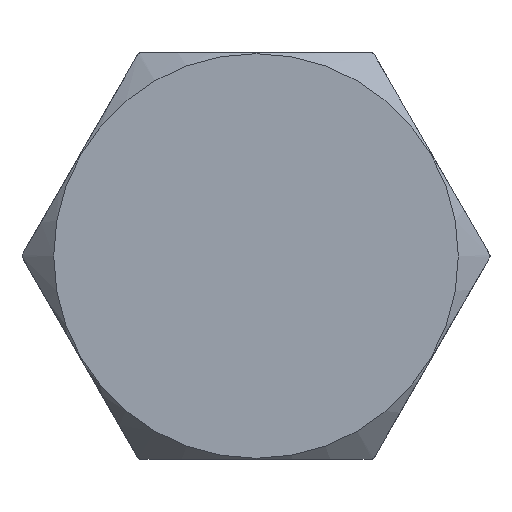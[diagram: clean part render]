
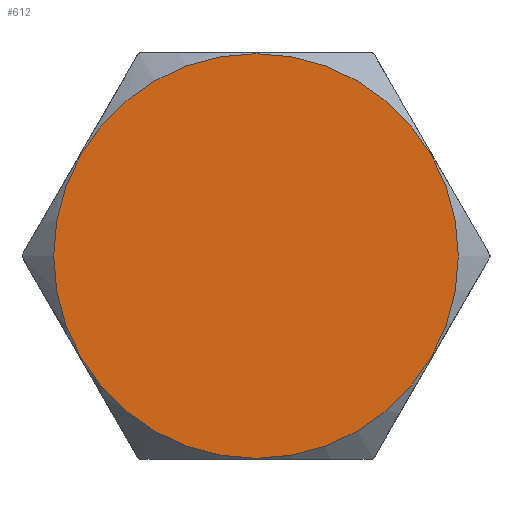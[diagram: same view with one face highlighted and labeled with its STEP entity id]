
A CAD part, front view. The second image highlights one B-rep face of the part: STEP entity #612.
In plain terms, the highlighted planar face has unit normal (0, -1, 0).
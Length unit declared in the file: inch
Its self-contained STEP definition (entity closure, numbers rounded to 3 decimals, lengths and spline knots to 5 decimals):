
#40=PLANE('',#700);
#104=FACE_OUTER_BOUND('',#142,.T.);
#142=EDGE_LOOP('',(#569));
#230=CIRCLE('',#697,0.498);
#293=VERTEX_POINT('',#1219);
#383=EDGE_CURVE('',#293,#293,#230,.T.);
#569=ORIENTED_EDGE('',*,*,#383,.F.);
#612=ADVANCED_FACE('',(#104),#40,.T.);
#697=AXIS2_PLACEMENT_3D('',#1220,#867,#868);
#700=AXIS2_PLACEMENT_3D('',#1224,#874,#875);
#867=DIRECTION('center_axis',(0.,1.,0.));
#868=DIRECTION('ref_axis',(0.,0.,1.));
#874=DIRECTION('center_axis',(0.,-1.,0.));
#875=DIRECTION('ref_axis',(0.,0.,-1.));
#1219=CARTESIAN_POINT('',(0.,0.,-0.498));
#1220=CARTESIAN_POINT('Origin',(0.,0.,0.));
#1224=CARTESIAN_POINT('Origin',(0.,0.,0.));
